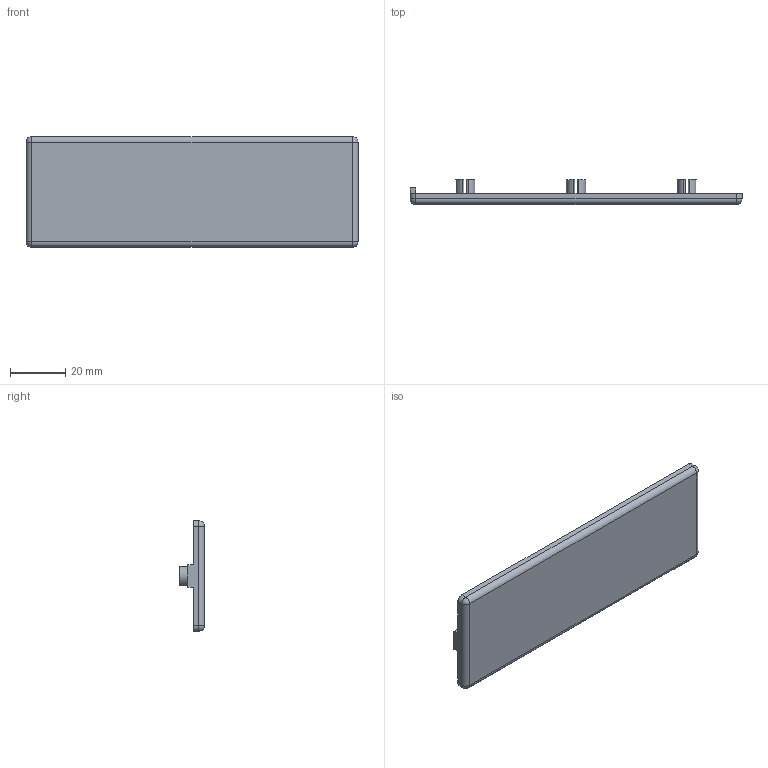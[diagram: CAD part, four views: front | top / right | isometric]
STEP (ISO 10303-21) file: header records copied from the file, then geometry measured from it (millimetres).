
FILE_DESCRIPTION (( 'STEP AP214' ), '1' );
FILE_NAME ('4046.STEP', '2017-07-20T10:38:54', ( '' ), ( '' ), 'SwSTEP 2.0', 'SolidWorks 2014', '' );
FILE_SCHEMA (( 'AUTOMOTIVE_DESIGN' ));
Length unit declared in the file: millimetre
Products named in the file (2): 4046
Bounding box: 120 x 9 x 40 mm (x, y, z)
Volume: 10951.3 mm3; surface area: 11988.3 mm2
Topology: 1 solids, 1 shells, 90 faces, 238 edges, 152 vertices
Faces by surface type: cylinder 54, plane 32, sphere 4
Entity records: 2839 total; most frequent: DIRECTION 526, CARTESIAN_POINT 478, ORIENTED_EDGE 468, EDGE_CURVE 234, AXIS2_PLACEMENT_3D 200, VERTEX_POINT 152, LINE 126, VECTOR 126
